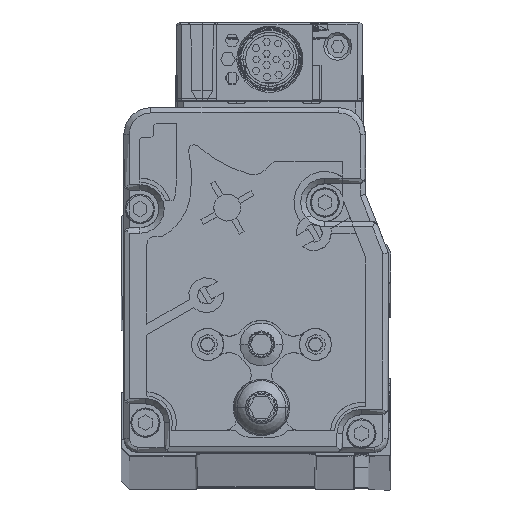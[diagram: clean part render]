
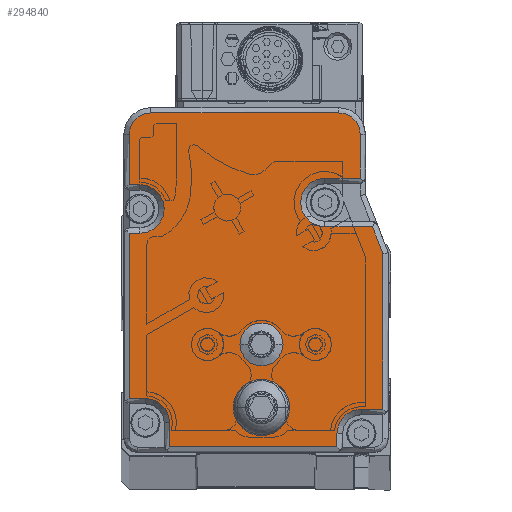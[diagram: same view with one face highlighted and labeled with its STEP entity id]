
A CAD part, top view. The second image highlights one B-rep face of the part: STEP entity #294840.
In plain terms, the highlighted planar face has unit normal (0, 0, 1).
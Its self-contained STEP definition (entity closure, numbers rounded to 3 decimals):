
#224570=CARTESIAN_POINT('',(-40.059,22.124,
1572.39));
#224580=VERTEX_POINT('',#224570);
#224610=CARTESIAN_POINT('',(-44.059,22.124,
1572.39));
#224620=DIRECTION('',(0.,0.,1.));
#224630=DIRECTION('',(1.,0.,0.));
#224640=AXIS2_PLACEMENT_3D('',#224610,#224620,#224630);
#224650=CIRCLE('',#224640,4.);
#224660=CARTESIAN_POINT('',(-48.059,22.124,
1572.39));
#224670=VERTEX_POINT('',#224660);
#224680=EDGE_CURVE('',#224670,#224580,#224650,.T.);
#238880=CARTESIAN_POINT('',(-39.056,10.421,
1572.39));
#238890=VERTEX_POINT('',#238880);
#239050=CARTESIAN_POINT('',(-49.056,10.421,
1572.39));
#239060=VERTEX_POINT('',#239050);
#239090=CARTESIAN_POINT('',(-44.056,10.421,
1572.39));
#239100=DIRECTION('',(0.,0.,1.));
#239110=DIRECTION('',(1.,0.,0.));
#239120=AXIS2_PLACEMENT_3D('',#239090,#239100,#239110);
#239130=CIRCLE('',#239120,5.);
#239140=EDGE_CURVE('',#238890,#239060,#239130,.T.);
#261660=CARTESIAN_POINT('',(-66.559,51.727,
1572.39));
#261670=DIRECTION('',(-1.,0.,0.));
#261680=VECTOR('',#261670,1.);
#261690=LINE('',#261660,#261680);
#261700=CARTESIAN_POINT('',(-66.559,51.727,
1572.39));
#261710=VERTEX_POINT('',#261700);
#261720=CARTESIAN_POINT('',(-68.559,51.727,
1572.39));
#261730=VERTEX_POINT('',#261720);
#261740=EDGE_CURVE('',#261710,#261730,#261690,.T.);
#262940=CARTESIAN_POINT('',(-66.559,47.227,
1572.39));
#262950=DIRECTION('',(0.,0.,1.));
#262960=DIRECTION('',(1.,0.,0.));
#262970=AXIS2_PLACEMENT_3D('',#262940,#262950,#262960);
#262980=CIRCLE('',#262970,4.5);
#262990=CARTESIAN_POINT('',(-66.559,42.727,
1572.39));
#263000=VERTEX_POINT('',#262990);
#263010=EDGE_CURVE('',#263000,#261710,#262980,.T.);
#265030=CARTESIAN_POINT('',(-30.059,3.124,
1572.39));
#265040=DIRECTION('',(-1.,0.,0.));
#265050=VECTOR('',#265040,1.);
#265060=LINE('',#265030,#265050);
#265070=CARTESIAN_POINT('',(-30.059,3.124,
1572.39));
#265080=VERTEX_POINT('',#265070);
#265090=CARTESIAN_POINT('',(-61.059,3.124,
1572.39));
#265100=VERTEX_POINT('',#265090);
#265110=EDGE_CURVE('',#265080,#265100,#265060,.T.);
#265600=CARTESIAN_POINT('',(-30.059,5.624,
1572.39));
#265610=DIRECTION('',(0.,-1.,0.));
#265620=VECTOR('',#265610,1.);
#265630=LINE('',#265600,#265620);
#265640=CARTESIAN_POINT('',(-30.059,5.624,
1572.39));
#265650=VERTEX_POINT('',#265640);
#265660=EDGE_CURVE('',#265650,#265080,#265630,.T.);
#266560=CARTESIAN_POINT('',(-32.309,48.424,
1572.39));
#266570=DIRECTION('',(0.,0.,1.));
#266580=DIRECTION('',(1.,0.,0.));
#266590=AXIS2_PLACEMENT_3D('',#266560,#266570,#266580);
#266600=CIRCLE('',#266590,4.5);
#266610=CARTESIAN_POINT('',(-32.309,52.924,
1572.39));
#266620=VERTEX_POINT('',#266610);
#266630=CARTESIAN_POINT('',(-32.309,43.924,
1572.39));
#266640=VERTEX_POINT('',#266630);
#266650=EDGE_CURVE('',#266620,#266640,#266600,.T.);
#266950=CARTESIAN_POINT('',(-32.309,43.924,
1572.39));
#266960=DIRECTION('',(1.,0.,0.));
#266970=VECTOR('',#266960,1.);
#266980=LINE('',#266950,#266970);
#266990=CARTESIAN_POINT('',(-23.499,43.924,
1572.39));
#267000=VERTEX_POINT('',#266990);
#267010=EDGE_CURVE('',#266640,#267000,#266980,.T.);
#268260=CARTESIAN_POINT('',(-23.499,43.924,
1572.39));
#268270=DIRECTION('',(0.362,-0.932,0.));
#268280=VECTOR('',#268270,1.);
#268290=LINE('',#268260,#268280);
#268300=CARTESIAN_POINT('',(-21.559,38.937,
1572.39));
#268310=VERTEX_POINT('',#268300);
#268320=EDGE_CURVE('',#267000,#268310,#268290,.T.);
#269690=CARTESIAN_POINT('',(-21.559,38.937,
1572.39));
#269700=DIRECTION('',(0.,-1.,0.));
#269710=VECTOR('',#269700,1.);
#269720=LINE('',#269690,#269710);
#269730=CARTESIAN_POINT('',(-21.559,10.124,
1572.39));
#269740=VERTEX_POINT('',#269730);
#269750=EDGE_CURVE('',#268310,#269740,#269720,.T.);
#270950=CARTESIAN_POINT('',(-21.559,10.124,
1572.39));
#270960=DIRECTION('',(-1.,0.,0.));
#270970=VECTOR('',#270960,1.);
#270980=LINE('',#270950,#270970);
#270990=CARTESIAN_POINT('',(-25.559,10.124,
1572.39));
#271000=VERTEX_POINT('',#270990);
#271010=EDGE_CURVE('',#269740,#271000,#270980,.T.);
#271330=CARTESIAN_POINT('',(-25.559,5.624,
1572.39));
#271340=DIRECTION('',(0.,0.,1.));
#271350=DIRECTION('',(1.,0.,0.));
#271360=AXIS2_PLACEMENT_3D('',#271330,#271340,#271350);
#271370=CIRCLE('',#271360,4.5);
#271380=EDGE_CURVE('',#271000,#265650,#271370,.T.);
#278590=CARTESIAN_POINT('',(-61.059,3.124,
1572.39));
#278600=DIRECTION('',(0.,1.,0.));
#278610=VECTOR('',#278600,1.);
#278620=LINE('',#278590,#278610);
#278630=CARTESIAN_POINT('',(-61.059,7.624,
1572.39));
#278640=VERTEX_POINT('',#278630);
#278650=EDGE_CURVE('',#265100,#278640,#278620,.T.);
#278910=CARTESIAN_POINT('',(-65.559,7.624,
1572.39));
#278920=DIRECTION('',(0.,0.,1.));
#278930=DIRECTION('',(1.,0.,0.));
#278940=AXIS2_PLACEMENT_3D('',#278910,#278920,#278930);
#278950=CIRCLE('',#278940,4.5);
#278960=CARTESIAN_POINT('',(-65.559,12.124,
1572.39));
#278970=VERTEX_POINT('',#278960);
#278980=EDGE_CURVE('',#278640,#278970,#278950,.T.);
#279230=CARTESIAN_POINT('',(-65.559,12.124,
1572.39));
#279240=DIRECTION('',(-1.,0.,0.));
#279250=VECTOR('',#279240,1.);
#279260=LINE('',#279230,#279250);
#279270=CARTESIAN_POINT('',(-68.559,12.124,
1572.39));
#279280=VERTEX_POINT('',#279270);
#279290=EDGE_CURVE('',#278970,#279280,#279260,.T.);
#283030=CARTESIAN_POINT('',(-68.559,12.124,
1572.39));
#283040=DIRECTION('',(0.,1.,0.));
#283050=VECTOR('',#283040,1.);
#283060=LINE('',#283030,#283050);
#283070=CARTESIAN_POINT('',(-68.559,42.727,
1572.39));
#283080=VERTEX_POINT('',#283070);
#283090=EDGE_CURVE('',#279280,#283080,#283060,.T.);
#284310=CARTESIAN_POINT('',(-68.559,42.727,
1572.39));
#284320=DIRECTION('',(1.,0.,0.));
#284330=VECTOR('',#284320,1.);
#284340=LINE('',#284310,#284330);
#284350=EDGE_CURVE('',#283080,#263000,#284340,.T.);
#285580=CARTESIAN_POINT('',(-68.559,51.727,
1572.39));
#285590=DIRECTION('',(0.,1.,0.));
#285600=VECTOR('',#285590,1.);
#285610=LINE('',#285580,#285600);
#285620=CARTESIAN_POINT('',(-68.559,61.024,
1572.39));
#285630=VERTEX_POINT('',#285620);
#285640=EDGE_CURVE('',#261730,#285630,#285610,.T.);
#285970=CARTESIAN_POINT('',(-64.559,61.024,
1572.39));
#285980=DIRECTION('',(0.,0.,-1.));
#285990=DIRECTION('',(-1.,0.,0.));
#286000=AXIS2_PLACEMENT_3D('',#285970,#285980,#285990);
#286010=CIRCLE('',#286000,4.);
#286020=CARTESIAN_POINT('',(-64.559,65.024,
1572.39));
#286030=VERTEX_POINT('',#286020);
#286040=EDGE_CURVE('',#285630,#286030,#286010,.T.);
#286360=CARTESIAN_POINT('',(-64.559,65.024,
1572.39));
#286370=DIRECTION('',(1.,0.,0.));
#286380=VECTOR('',#286370,1.);
#286390=LINE('',#286360,#286380);
#286400=CARTESIAN_POINT('',(-29.759,65.024,
1572.39));
#286410=VERTEX_POINT('',#286400);
#286420=EDGE_CURVE('',#286030,#286410,#286390,.T.);
#286860=CARTESIAN_POINT('',(-25.759,61.024,
1572.39));
#286870=VERTEX_POINT('',#286860);
#286900=CARTESIAN_POINT('',(-29.759,61.024,
1572.39));
#286910=DIRECTION('',(0.,0.,-1.));
#286920=DIRECTION('',(-1.,0.,0.));
#286930=AXIS2_PLACEMENT_3D('',#286900,#286910,#286920);
#286940=CIRCLE('',#286930,4.);
#286950=EDGE_CURVE('',#286410,#286870,#286940,.T.);
#287130=CARTESIAN_POINT('',(-25.759,61.024,
1572.39));
#287140=DIRECTION('',(0.,-1.,0.));
#287150=VECTOR('',#287140,1.);
#287160=LINE('',#287130,#287150);
#287170=CARTESIAN_POINT('',(-25.759,52.924,
1572.39));
#287180=VERTEX_POINT('',#287170);
#287190=EDGE_CURVE('',#286870,#287180,#287160,.T.);
#287540=CARTESIAN_POINT('',(-25.759,52.924,
1572.39));
#287550=DIRECTION('',(-1.,0.,0.));
#287560=VECTOR('',#287550,1.);
#287570=LINE('',#287540,#287560);
#287580=EDGE_CURVE('',#287180,#266620,#287570,.T.);
#294460=CARTESIAN_POINT('',(-45.059,34.074,
1572.39));
#294470=DIRECTION('',(0.,0.,1.));
#294480=DIRECTION('',(1.,0.,0.));
#294490=AXIS2_PLACEMENT_3D('',#294460,#294470,#294480);
#294500=PLANE('',#294490);
#294510=ORIENTED_EDGE('',*,*,#278650,.F.);
#294520=ORIENTED_EDGE('',*,*,#278980,.F.);
#294530=ORIENTED_EDGE('',*,*,#279290,.F.);
#294540=ORIENTED_EDGE('',*,*,#283090,.F.);
#294550=ORIENTED_EDGE('',*,*,#284350,.F.);
#294560=ORIENTED_EDGE('',*,*,#263010,.F.);
#294570=ORIENTED_EDGE('',*,*,#261740,.F.);
#294580=ORIENTED_EDGE('',*,*,#285640,.F.);
#294590=ORIENTED_EDGE('',*,*,#286040,.F.);
#294600=ORIENTED_EDGE('',*,*,#286420,.F.);
#294610=ORIENTED_EDGE('',*,*,#286950,.F.);
#294620=ORIENTED_EDGE('',*,*,#287190,.F.);
#294630=ORIENTED_EDGE('',*,*,#287580,.F.);
#294640=ORIENTED_EDGE('',*,*,#266650,.F.);
#294650=ORIENTED_EDGE('',*,*,#267010,.F.);
#294660=ORIENTED_EDGE('',*,*,#268320,.F.);
#294670=ORIENTED_EDGE('',*,*,#269750,.F.);
#294680=ORIENTED_EDGE('',*,*,#271010,.F.);
#294690=ORIENTED_EDGE('',*,*,#271380,.F.);
#294700=ORIENTED_EDGE('',*,*,#265660,.F.);
#294710=ORIENTED_EDGE('',*,*,#265110,.F.);
#294720=EDGE_LOOP('',(#294710,#294700,#294690,#294680,#294670,#294660,
#294650,#294640,#294630,#294620,#294610,#294600,#294590,#294580,#294570,
#294560,#294550,#294540,#294530,#294520,#294510));
#294730=FACE_OUTER_BOUND('',#294720,.T.);
#294740=EDGE_CURVE('',#239060,#238890,#239130,.T.);
#294750=ORIENTED_EDGE('',*,*,#294740,.F.);
#294760=ORIENTED_EDGE('',*,*,#239140,.F.);
#294770=EDGE_LOOP('',(#294760,#294750));
#294780=FACE_BOUND('',#294770,.T.);
#294790=EDGE_CURVE('',#224580,#224670,#224650,.T.);
#294800=ORIENTED_EDGE('',*,*,#294790,.F.);
#294810=ORIENTED_EDGE('',*,*,#224680,.F.);
#294820=EDGE_LOOP('',(#294810,#294800));
#294830=FACE_BOUND('',#294820,.T.);
#294840=ADVANCED_FACE('',(#294730,#294780,#294830),#294500,.T.);
